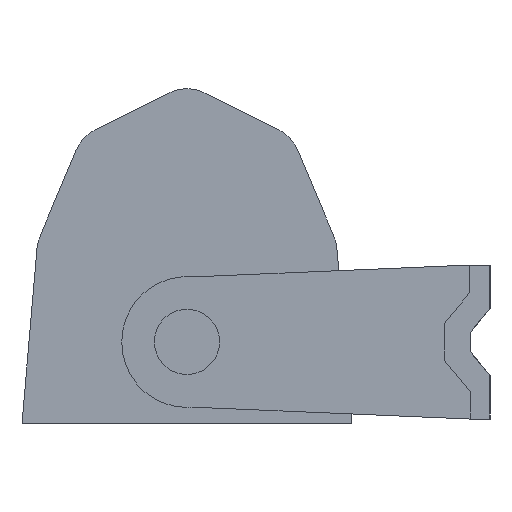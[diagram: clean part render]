
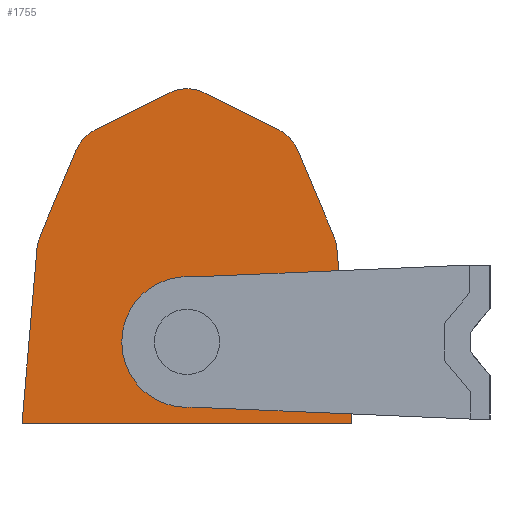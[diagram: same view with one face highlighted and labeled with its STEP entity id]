
A CAD part, left-side view. The second image highlights one B-rep face of the part: STEP entity #1755.
In plain terms, the highlighted planar face has unit normal (-1, 0, 0).
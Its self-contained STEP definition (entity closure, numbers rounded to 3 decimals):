
#53 = ORIENTED_EDGE ( 'NONE', *, *, #2023, .F. ) ;
#64 = LINE ( 'NONE', #1876, #3199 ) ;
#82 = VERTEX_POINT ( 'NONE', #1762 ) ;
#97 = ORIENTED_EDGE ( 'NONE', *, *, #1266, .F. ) ;
#103 = CARTESIAN_POINT ( 'NONE',  ( -171., -5.458, 36.348 ) ) ;
#124 = DIRECTION ( 'NONE',  ( 0., 0., 1. ) ) ;
#128 = DIRECTION ( 'NONE',  ( 0., -0.894, 0.448 ) ) ;
#165 = CARTESIAN_POINT ( 'NONE',  ( -171., 12.568, -6.78 ) ) ;
#190 = VERTEX_POINT ( 'NONE', #3537 ) ;
#209 = VERTEX_POINT ( 'NONE', #3514 ) ;
#221 = DIRECTION ( 'NONE',  ( 0., 0., 1. ) ) ;
#253 = EDGE_LOOP ( 'NONE', ( #2892, #1753, #2574, #53, #2849, #1108, #789, #3488, #2867, #2403, #317, #3038, #2437 ) ) ;
#260 = CARTESIAN_POINT ( 'NONE',  ( -171., -23.511, 19.169 ) ) ;
#286 = DIRECTION ( 'NONE',  ( 1., 0., 0. ) ) ;
#317 = ORIENTED_EDGE ( 'NONE', *, *, #1154, .F. ) ;
#358 = CIRCLE ( 'NONE', #516, 10. ) ;
#369 = CARTESIAN_POINT ( 'NONE',  ( -171., 12.568, 55.371 ) ) ;
#411 = FACE_OUTER_BOUND ( 'NONE', #253, .T. ) ;
#415 = LINE ( 'NONE', #726, #690 ) ;
#433 = VERTEX_POINT ( 'NONE', #493 ) ;
#443 = DIRECTION ( 'NONE',  ( 1., 0., 0. ) ) ;
#448 = VERTEX_POINT ( 'NONE', #471 ) ;
#471 = CARTESIAN_POINT ( 'NONE',  ( -171., 49.389, 16.154 ) ) ;
#493 = CARTESIAN_POINT ( 'NONE',  ( -171., 12.568, 8.22 ) ) ;
#516 = AXIS2_PLACEMENT_3D ( 'NONE', #2772, #707, #2140 ) ;
#542 = EDGE_CURVE ( 'NONE', #3395, #2011, #2186, .T. ) ;
#623 = LINE ( 'NONE', #260, #3183 ) ;
#665 = CARTESIAN_POINT ( 'NONE',  ( -171., 8.092, 54.313 ) ) ;
#669 = DIRECTION ( 'NONE',  ( -1., 0., 0. ) ) ;
#690 = VECTOR ( 'NONE', #1327, 1000. ) ;
#694 = VERTEX_POINT ( 'NONE', #1626 ) ;
#707 = DIRECTION ( 'NONE',  ( 1., 0., 0. ) ) ;
#724 = EDGE_CURVE ( 'NONE', #1078, #2712, #3530, .T. ) ;
#726 = CARTESIAN_POINT ( 'NONE',  ( -171., 53.068, -26.78 ) ) ;
#789 = ORIENTED_EDGE ( 'NONE', *, *, #724, .F. ) ;
#848 = AXIS2_PLACEMENT_3D ( 'NONE', #165, #3390, #3124 ) ;
#890 = LINE ( 'NONE', #1508, #3260 ) ;
#914 = EDGE_CURVE ( 'NONE', #209, #1078, #64, .T. ) ;
#970 = AXIS2_PLACEMENT_3D ( 'NONE', #1247, #669, #124 ) ;
#1078 = VERTEX_POINT ( 'NONE', #3760 ) ;
#1095 = DIRECTION ( 'NONE',  ( 1., 0., 0. ) ) ;
#1108 = ORIENTED_EDGE ( 'NONE', *, *, #3283, .F. ) ;
#1111 = DIRECTION ( 'NONE',  ( -1., 0., 0. ) ) ;
#1128 = DIRECTION ( 'NONE',  ( 1., 0., 0. ) ) ;
#1153 = VECTOR ( 'NONE', #3339, 1000. ) ;
#1154 = EDGE_CURVE ( 'NONE', #448, #82, #358, .T. ) ;
#1169 = VERTEX_POINT ( 'NONE', #2747 ) ;
#1247 = CARTESIAN_POINT ( 'NONE',  ( -171., -14.289, 15.3 ) ) ;
#1266 = EDGE_CURVE ( 'NONE', #433, #190, #1497, .T. ) ;
#1280 = CARTESIAN_POINT ( 'NONE',  ( -171., 48.647, 19.169 ) ) ;
#1327 = DIRECTION ( 'NONE',  ( 0., 1., 0. ) ) ;
#1391 = DIRECTION ( 'NONE',  ( 1., 0., 0. ) ) ;
#1497 = CIRCLE ( 'NONE', #1824, 15. ) ;
#1508 = CARTESIAN_POINT ( 'NONE',  ( -171., 53.068, -26.78 ) ) ;
#1517 = AXIS2_PLACEMENT_3D ( 'NONE', #2680, #1391, #2776 ) ;
#1598 = LINE ( 'NONE', #1280, #2284 ) ;
#1626 = CARTESIAN_POINT ( 'NONE',  ( -171., 39.815, 40.217 ) ) ;
#1685 = VECTOR ( 'NONE', #3136, 1000. ) ;
#1690 = CARTESIAN_POINT ( 'NONE',  ( -171., 12.568, -6.78 ) ) ;
#1753 = ORIENTED_EDGE ( 'NONE', *, *, #542, .F. ) ;
#1755 = ADVANCED_FACE ( 'NONE', ( #3777, #411 ), #3554, .T. ) ;
#1762 = CARTESIAN_POINT ( 'NONE',  ( -171., 48.647, 19.169 ) ) ;
#1823 = AXIS2_PLACEMENT_3D ( 'NONE', #2010, #286, #3523 ) ;
#1824 = AXIS2_PLACEMENT_3D ( 'NONE', #1690, #1111, #3174 ) ;
#1826 = LINE ( 'NONE', #1877, #1153 ) ;
#1876 = CARTESIAN_POINT ( 'NONE',  ( -171., 35.07, 45.29 ) ) ;
#1877 = CARTESIAN_POINT ( 'NONE',  ( -171., -27.932, -26.78 ) ) ;
#1948 = CARTESIAN_POINT ( 'NONE',  ( -171., -14.289, 15.3 ) ) ;
#2010 = CARTESIAN_POINT ( 'NONE',  ( -171., 12.568, 45.371 ) ) ;
#2011 = VERTEX_POINT ( 'NONE', #2739 ) ;
#2023 = EDGE_CURVE ( 'NONE', #3767, #2115, #3207, .T. ) ;
#2031 = EDGE_CURVE ( 'NONE', #1169, #2944, #415, .T. ) ;
#2096 = CARTESIAN_POINT ( 'NONE',  ( -171., -23.511, 19.169 ) ) ;
#2115 = VERTEX_POINT ( 'NONE', #2538 ) ;
#2138 = CARTESIAN_POINT ( 'NONE',  ( -171., 53.068, -26.78 ) ) ;
#2140 = DIRECTION ( 'NONE',  ( 0., 0., -1. ) ) ;
#2144 = EDGE_CURVE ( 'NONE', #2294, #3767, #3639, .T. ) ;
#2149 = EDGE_CURVE ( 'NONE', #190, #433, #2455, .T. ) ;
#2186 = CIRCLE ( 'NONE', #2840, 10. ) ;
#2261 = CARTESIAN_POINT ( 'NONE',  ( -171., 30.594, 36.348 ) ) ;
#2272 = DIRECTION ( 'NONE',  ( 0., 0., -1. ) ) ;
#2284 = VECTOR ( 'NONE', #3086, 1000. ) ;
#2294 = VERTEX_POINT ( 'NONE', #665 ) ;
#2327 = DIRECTION ( 'NONE',  ( 0., -0.387, -0.922 ) ) ;
#2403 = ORIENTED_EDGE ( 'NONE', *, *, #3678, .F. ) ;
#2437 = ORIENTED_EDGE ( 'NONE', *, *, #2031, .F. ) ;
#2455 = CIRCLE ( 'NONE', #848, 15. ) ;
#2475 = CIRCLE ( 'NONE', #1823, 10. ) ;
#2476 = DIRECTION ( 'NONE',  ( 0., 0., 1. ) ) ;
#2507 = EDGE_CURVE ( 'NONE', #694, #209, #3586, .T. ) ;
#2538 = CARTESIAN_POINT ( 'NONE',  ( -171., -14.679, 40.217 ) ) ;
#2574 = ORIENTED_EDGE ( 'NONE', *, *, #3255, .F. ) ;
#2616 = EDGE_LOOP ( 'NONE', ( #3293, #97 ) ) ;
#2680 = CARTESIAN_POINT ( 'NONE',  ( -171., 12.568, 45.371 ) ) ;
#2711 = DIRECTION ( 'NONE',  ( 0., -0.085, 0.996 ) ) ;
#2712 = VERTEX_POINT ( 'NONE', #369 ) ;
#2739 = CARTESIAN_POINT ( 'NONE',  ( -171., -24.253, 16.154 ) ) ;
#2747 = CARTESIAN_POINT ( 'NONE',  ( -171., -27.932, -26.78 ) ) ;
#2772 = CARTESIAN_POINT ( 'NONE',  ( -171., 39.426, 15.3 ) ) ;
#2776 = DIRECTION ( 'NONE',  ( 0., 0., -1. ) ) ;
#2808 = AXIS2_PLACEMENT_3D ( 'NONE', #2261, #1128, #2272 ) ;
#2840 = AXIS2_PLACEMENT_3D ( 'NONE', #1948, #1095, #221 ) ;
#2849 = ORIENTED_EDGE ( 'NONE', *, *, #2144, .F. ) ;
#2867 = ORIENTED_EDGE ( 'NONE', *, *, #2507, .F. ) ;
#2877 = AXIS2_PLACEMENT_3D ( 'NONE', #103, #443, #2476 ) ;
#2892 = ORIENTED_EDGE ( 'NONE', *, *, #3723, .F. ) ;
#2944 = VERTEX_POINT ( 'NONE', #2138 ) ;
#3038 = ORIENTED_EDGE ( 'NONE', *, *, #3417, .F. ) ;
#3086 = DIRECTION ( 'NONE',  ( 0., -0.387, 0.922 ) ) ;
#3124 = DIRECTION ( 'NONE',  ( 0., 0., 1. ) ) ;
#3136 = DIRECTION ( 'NONE',  ( 0., -0.894, -0.448 ) ) ;
#3174 = DIRECTION ( 'NONE',  ( 0., 0., 1. ) ) ;
#3183 = VECTOR ( 'NONE', #2327, 1000. ) ;
#3199 = VECTOR ( 'NONE', #128, 1000. ) ;
#3207 = CIRCLE ( 'NONE', #2877, 10. ) ;
#3255 = EDGE_CURVE ( 'NONE', #2115, #3395, #623, .T. ) ;
#3260 = VECTOR ( 'NONE', #2711, 1000. ) ;
#3283 = EDGE_CURVE ( 'NONE', #2712, #2294, #2475, .T. ) ;
#3293 = ORIENTED_EDGE ( 'NONE', *, *, #2149, .F. ) ;
#3339 = DIRECTION ( 'NONE',  ( 0., -0.085, -0.996 ) ) ;
#3386 = CARTESIAN_POINT ( 'NONE',  ( -171., -9.934, 45.29 ) ) ;
#3390 = DIRECTION ( 'NONE',  ( -1., 0., 0. ) ) ;
#3395 = VERTEX_POINT ( 'NONE', #2096 ) ;
#3411 = CARTESIAN_POINT ( 'NONE',  ( -171., -9.934, 45.29 ) ) ;
#3417 = EDGE_CURVE ( 'NONE', #2944, #448, #890, .T. ) ;
#3488 = ORIENTED_EDGE ( 'NONE', *, *, #914, .F. ) ;
#3514 = CARTESIAN_POINT ( 'NONE',  ( -171., 35.07, 45.29 ) ) ;
#3523 = DIRECTION ( 'NONE',  ( 0., 0., -1. ) ) ;
#3530 = CIRCLE ( 'NONE', #1517, 10. ) ;
#3537 = CARTESIAN_POINT ( 'NONE',  ( -171., 12.568, -21.78 ) ) ;
#3554 = PLANE ( 'NONE',  #970 ) ;
#3586 = CIRCLE ( 'NONE', #2808, 10. ) ;
#3639 = LINE ( 'NONE', #3411, #1685 ) ;
#3678 = EDGE_CURVE ( 'NONE', #82, #694, #1598, .T. ) ;
#3723 = EDGE_CURVE ( 'NONE', #2011, #1169, #1826, .T. ) ;
#3760 = CARTESIAN_POINT ( 'NONE',  ( -171., 17.044, 54.313 ) ) ;
#3767 = VERTEX_POINT ( 'NONE', #3386 ) ;
#3777 = FACE_BOUND ( 'NONE', #2616, .T. ) ;
